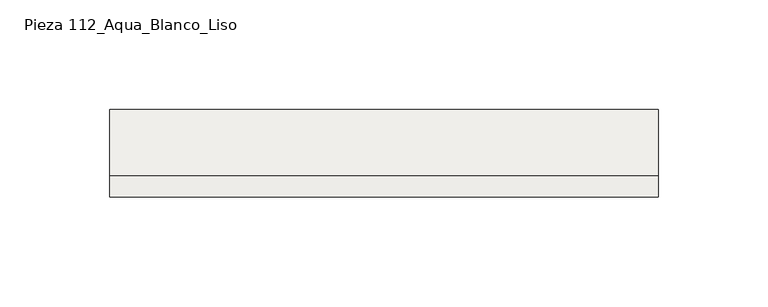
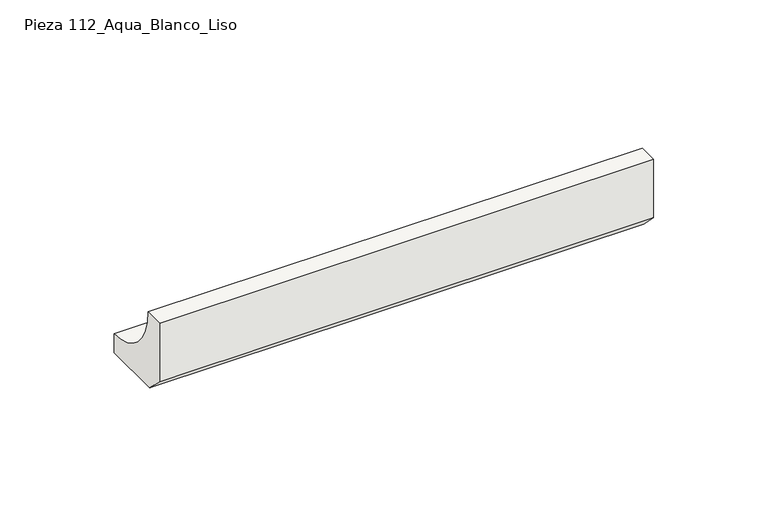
"""IFC4 building model written with IfcOpenShell, lengths in millimetres: slab geometry, ROSA GRES_112 : Pieza 112_Aqua_Blanco_Liso."""

from ifc_helpers import new_model, si_unit, point, frame, frame_2d, origin, place, context, project, spatial, polyline, circle_curve, trimmed, segment, composite_curve, outline, extrude, source, transform, mapped, element, save


def pieza_112_aqua_blanco_liso_35958186(model_context):
    return source(origin(), model_context, "Body", "SweptSolid", [
        extrude(outline(composite_curve([segment(polyline([(-9.9734114, 8.7114978), (-9.9734114, 40.0), (0.0, 40.0)]), True, "CONTINUOUS"), segment(trimmed(circle_curve(frame_2d((30.0221432, 39.9955547)), 30.0221435), [point((0.0, 40.0))], [point((30.0265886, 9.9734114))], True, "CARTESIAN"), True, "CONTINUOUS"), segment(polyline([(30.0265886, 9.9734114), (30.0265886, 0.0), (-1.2619137, 0.0), (-9.9734114, 8.7114978)]), True, "CONTINUOUS")], self_intersect=False)), frame((0.0, 0.0, 0.0), z_axis=(1.0, 0.0, 0.0), x_axis=(0.0, 1.0, 0.0)), (0.0, 0.0, 1.0), 250.0067189),
    ])


if __name__ == "__main__":
    model = new_model("IFC4")
    model_context = context("Model", 3, world=origin())
    ifc_project = project(units=[si_unit("LENGTHUNIT", "METRE", prefix="MILLI")], contexts=[model_context])
    site = spatial("IfcSite", under=ifc_project)
    building = spatial("IfcBuilding", under=site)
    placement = place(None, origin())
    pieza_112_aqua_blanco_liso_shape = pieza_112_aqua_blanco_liso_35958186(model_context)
    element("IfcSlab", 1, ObjectType="ROSA GRES_112 : Pieza 112_Aqua_Blanco_Liso", at=placement, inside=building, context=model_context, shape_type="MappedRepresentation", body=[
        mapped(pieza_112_aqua_blanco_liso_shape, transform((0.0, 0.0, 0.0), x_axis=(1.0, 0.0, 0.0), y_axis=(0.0, 1.0, 0.0), z_axis=(0.0, 0.0, 1.0))),
    ])
    save(model, "model.ifc")
